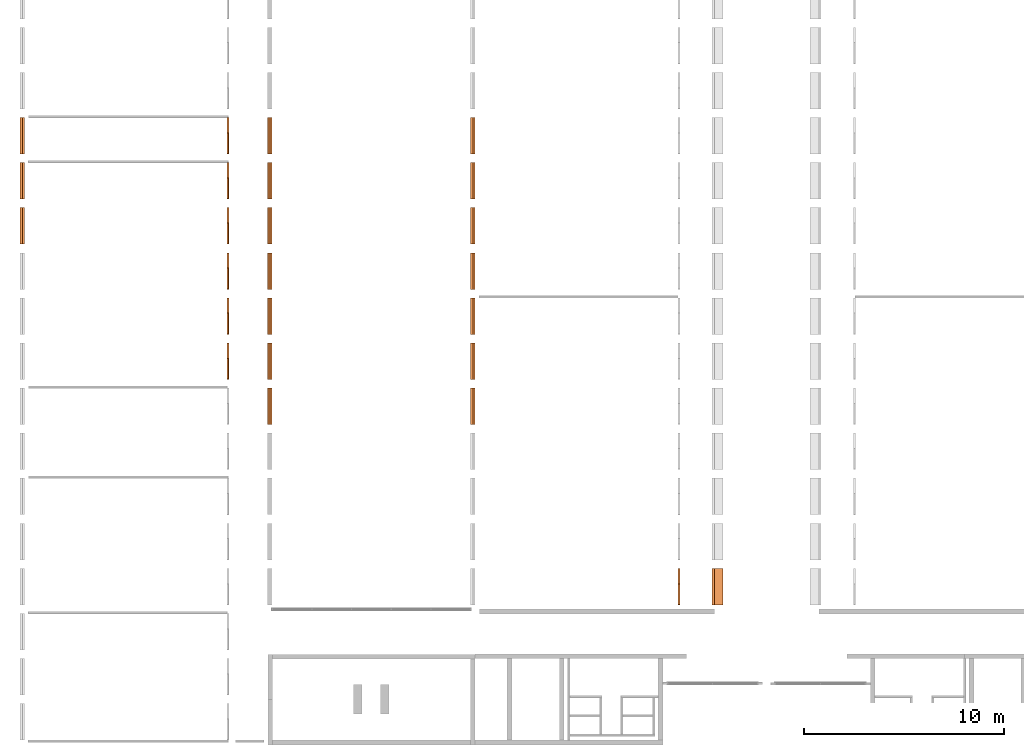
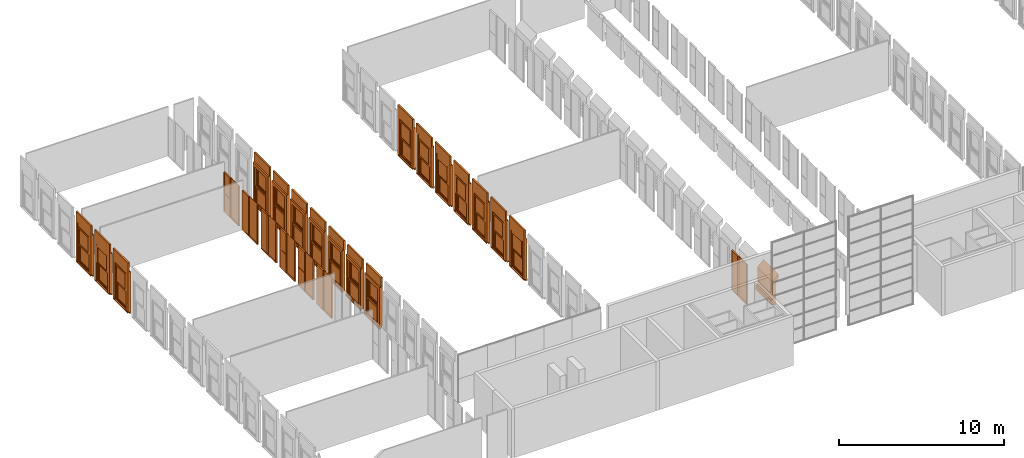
# One storey, part 10 of 16: 25 proxies.
"""IFC2X3 building model written with IfcOpenShell, lengths in millimetres."""

from ifc_helpers import new_model, entity, si_unit, converted_unit, derived_unit, direction, frame, frame_2d, origin, origin_2d_with_axis, place, context, subcontext, project, spatial, polyline, rectangle, outline, extrude, source, transform, mapped, material, material_list, type_object, type_shapes, element, save


model = new_model("IFC2X3")

# Units and contexts
model_context = context("Model", 3, precision=0.01, world=origin(), true_north=direction((6.12303176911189e-17, 1.0)))
body_context = subcontext(model_context, "Body", "Model", "MODEL_VIEW")
ifc_project = project(units=[si_unit("LENGTHUNIT", "METRE", prefix="MILLI"), si_unit("AREAUNIT", "SQUARE_METRE"), si_unit("VOLUMEUNIT", "CUBIC_METRE"), converted_unit("PLANEANGLEUNIT", "DEGREE", entity("IfcRatioMeasure", 0.0174532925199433), si_unit("PLANEANGLEUNIT", "RADIAN"), dimensions=[0, 0, 0, 0, 0, 0, 0]), si_unit("MASSUNIT", "GRAM", prefix="KILO"), derived_unit("MASSDENSITYUNIT", [(si_unit("MASSUNIT", "GRAM", prefix="KILO"), 1), (si_unit("LENGTHUNIT", "METRE"), -3)]), derived_unit("MOMENTOFINERTIAUNIT", [(si_unit("LENGTHUNIT", "METRE"), 4)]), si_unit("TIMEUNIT", "SECOND"), si_unit("FREQUENCYUNIT", "HERTZ"), si_unit("THERMODYNAMICTEMPERATUREUNIT", "DEGREE_CELSIUS"), derived_unit("THERMALTRANSMITTANCEUNIT", [(si_unit("MASSUNIT", "GRAM", prefix="KILO"), 1), (si_unit("THERMODYNAMICTEMPERATUREUNIT", "KELVIN"), -1), (si_unit("TIMEUNIT", "SECOND"), -3)]), derived_unit("VOLUMETRICFLOWRATEUNIT", [(si_unit("LENGTHUNIT", "METRE"), 3), (si_unit("TIMEUNIT", "SECOND"), -1)]), si_unit("ELECTRICCURRENTUNIT", "AMPERE"), si_unit("ELECTRICVOLTAGEUNIT", "VOLT"), si_unit("POWERUNIT", "WATT"), si_unit("FORCEUNIT", "NEWTON", prefix="KILO"), si_unit("ILLUMINANCEUNIT", "LUX"), si_unit("LUMINOUSFLUXUNIT", "LUMEN"), si_unit("LUMINOUSINTENSITYUNIT", "CANDELA"), derived_unit("USERDEFINED", [(si_unit("MASSUNIT", "GRAM", prefix="KILO"), -1), (si_unit("LENGTHUNIT", "METRE"), -2), (si_unit("TIMEUNIT", "SECOND"), 3), (si_unit("LUMINOUSFLUXUNIT", "LUMEN"), 1)]), derived_unit("LINEARVELOCITYUNIT", [(si_unit("LENGTHUNIT", "METRE"), 1), (si_unit("TIMEUNIT", "SECOND"), -1)]), si_unit("PRESSUREUNIT", "PASCAL"), derived_unit("USERDEFINED", [(si_unit("LENGTHUNIT", "METRE"), -2), (si_unit("MASSUNIT", "GRAM", prefix="KILO"), 1), (si_unit("TIMEUNIT", "SECOND"), -2)]), derived_unit("LINEARFORCEUNIT", [(si_unit("MASSUNIT", "GRAM", prefix="KILO"), 1), (si_unit("LENGTHUNIT", "METRE"), 1), (si_unit("TIMEUNIT", "SECOND"), -2), (si_unit("LENGTHUNIT", "METRE"), -1)]), derived_unit("PLANARFORCEUNIT", [(si_unit("MASSUNIT", "GRAM", prefix="KILO"), 1), (si_unit("LENGTHUNIT", "METRE"), 1), (si_unit("TIMEUNIT", "SECOND"), -2), (si_unit("LENGTHUNIT", "METRE"), -2)])], contexts=[model_context])

# Site, building, storey
site_placement = place(None, frame((10627.5135316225, 21939.0796949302, 0.0)))
site = spatial("IfcSite", under=ifc_project, at=site_placement, Name="Default", CompositionType="ELEMENT")
building_placement = place(site_placement, origin())
building = spatial("IfcBuilding", under=site, at=building_placement, CompositionType="ELEMENT")
storey_placement = place(building_placement, frame((0.0, 0.0, 3660.0)))
storey = spatial("IfcBuildingStorey", under=building, at=storey_placement, Name="R+1", CompositionType="ELEMENT", Elevation=3660.0)

# Proxies
ifc_material_1 = material(Name="PVC, Flexible")
ifc_material_2 = material(Name="Glass")
ifc_material_list_1 = material_list([ifc_material_1, ifc_material_2])
building_element_proxy_type_1 = type_object("IfcBuildingElementProxyType", Name="FENETRE.dwg:Fenetre ext 296+70", PredefinedType="NOTDEFINED", material=ifc_material_1)
shared_shape_1 = source(origin(), body_context, "Body", "SweptSolid", [
    extrude(rectangle(XDim=1829.99999999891, YDim=112.500043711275, at=origin_2d_with_axis()), frame((-10.4189092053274, 56.2500218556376, 2960.0), z_axis=(0.0, 0.0, 1.0), x_axis=(-1.0, 0.0, 0.0)), (0.0, 0.0, 1.0), 700.0),
    extrude(outline(polyline([(-68.5678005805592, -14.3879872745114), (-72.4883397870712, -33.9999574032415), (-67.5853472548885, -34.9800922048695), (-63.9024543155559, -16.5569155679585), (44.3087537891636, -16.5569155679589), (54.1101018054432, 32.4730097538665), (40.6268723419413, 35.1683804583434), (40.1368049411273, 32.7168841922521), (51.168538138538, 30.5115808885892), (42.1928709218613, -14.3879872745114), (-68.5678005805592, -14.3879872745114)])), frame((-925.418909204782, 66.917049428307, -47.5499763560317), z_axis=(-1.0, 0.0, 0.0), x_axis=(0.0, 0.980598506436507, -0.196026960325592)), (0.0, 0.0, -1.0), 1829.99999999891),
    extrude(outline(polyline([(-64.667066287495, -56.2500218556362), (66.1666874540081, -56.2500218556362), (66.1666874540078, 56.2500218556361), (-67.6663086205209, 56.2500218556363), (-64.667066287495, -56.2500218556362)])), frame((-925.418909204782, -56.2500218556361, -63.833312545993), z_axis=(1.0, 0.0, 0.0), x_axis=(0.0, 0.0, -1.0)), (0.0, 0.0, 1.0), 1829.99999999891),
    extrude(outline(polyline([(-55.5555555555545, 97.0007159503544), (-55.5555555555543, -5.85738417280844), (-55.5555555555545, -95.357341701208), (-45.5555555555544, -95.3573417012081), (-45.5555555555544, -105.357341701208), (174.444444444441, -105.357341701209), (174.444444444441, 106.642659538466), (-45.5555555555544, 106.642659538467), (-45.5555555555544, 97.0007159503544), (-55.5555555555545, 97.0007159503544)])), frame((849.025535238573, 5.85738417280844, 0.0), z_axis=(0.0, 0.0, -1.0), x_axis=(-1.0, 0.0, 0.0)), (0.0, 0.0, -1.0), 2960.0),
    extrude(rectangle(XDim=199.499957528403, YDim=1369.99999999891, at=origin_2d_with_axis()), frame((-10.4189092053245, 0.250021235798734, 2730.0), z_axis=(0.0, 0.0, 1.0), x_axis=(0.0, 1.0, 0.0)), (0.0, 0.0, 1.0), 230.000000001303),
    extrude(outline(polyline([(-97.0007159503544, -55.5555555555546), (5.85738417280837, -55.5555555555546), (95.357341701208, -55.5555555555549), (95.357341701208, -45.5555555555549), (105.357341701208, -45.5555555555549), (105.357341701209, 174.44444444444), (-106.642659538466, 174.444444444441), (-106.642659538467, -45.5555555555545), (-97.0007159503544, -45.5555555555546), (-97.0007159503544, -55.5555555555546)])), frame((-869.863353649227, 5.85738417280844, 0.0), z_axis=(0.0, 0.0, 1.0), x_axis=(0.0, -1.0, 0.0)), (0.0, 0.0, 1.0), 2960.0),
    extrude(rectangle(XDim=1.0, YDim=1079.99999999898, at=origin_2d_with_axis()), frame((-10.4189092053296, -19.5, 130.0), z_axis=(0.0, 0.0, 1.0), x_axis=(0.0, 1.0, 0.0)), (0.0, 0.0, 1.0), 1120.00000000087),
    extrude(rectangle(XDim=1.0, YDim=1079.99999999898, at=frame_2d((-4.21884749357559e-15, 0.0), x_axis=(1.0, 0.0))), frame((-10.4189092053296, -30.5, 130.0), z_axis=(0.0, 0.0, 1.0), x_axis=(0.0, 1.0, 0.0)), (0.0, 0.0, 1.0), 1120.00000000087),
    extrude(rectangle(XDim=1.0, YDim=1079.99999999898, at=frame_2d((-4.21884749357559e-15, 0.0), x_axis=(1.0, 0.0))), frame((-10.4189092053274, 69.5, 1465.0), z_axis=(0.0, 0.0, 1.0), x_axis=(0.0, 1.0, 0.0)), (0.0, 0.0, 1.0), 1120.0),
    extrude(rectangle(XDim=0.999999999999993, YDim=1079.99999999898, at=frame_2d((-8.46545056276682e-15, 0.0), x_axis=(1.0, 0.0))), frame((-10.4189092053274, 80.5, 1465.0), z_axis=(0.0, 0.0, 1.0), x_axis=(0.0, 1.0, 0.0)), (0.0, 0.0, 1.0), 1120.00000000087),
    extrude(outline(polyline([(-685.0, -1365.0), (0.0, -1365.0), (685.0, -1365.0), (685.0, 1365.0), (0.0, 1365.0), (-685.0, 1365.0), (-685.0, -1365.0)]), holes=[polyline([(-640.0, -1320.0), (-640.0, -45.0), (0.0, -45.0), (640.0, -45.0), (640.0, -1320.0), (0.0, -1320.0), (-640.0, -1320.0)]), polyline([(-640.0, 40.0), (-640.0, 1315.0), (0.0, 1315.0), (640.0, 1315.0), (640.0, 40.0), (0.0, 40.0), (-640.0, 40.0)])]), frame((-10.4189092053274, 0.0, 1365.0), z_axis=(0.0, 1.0, 0.0), x_axis=(1.0, 0.0, 0.0)), (0.0, 0.0, 1.0), 50.0),
    extrude(outline(polyline([(-655.0, -667.500000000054), (655.0, -667.500000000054), (655.0, 667.500000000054), (-655.0, 667.500000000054), (-655.0, -667.500000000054)]), holes=[polyline([(-540.0, 552.500000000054), (540.0, 552.500000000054), (540.0, -567.500000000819), (-540.0, -567.500000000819), (-540.0, 552.500000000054)])]), frame((-10.4189092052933, -50.0, 697.500000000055), z_axis=(0.0, 1.0, 0.0), x_axis=(-1.0, 0.0, 0.0)), (0.0, 0.0, 1.0), 50.0),
    extrude(outline(polyline([(-655.0, -667.500000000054), (655.0, -667.500000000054), (655.0, 667.500000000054), (-655.0, 667.500000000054), (-655.0, -667.500000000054)]), holes=[polyline([(-540.0, 552.500000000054), (540.0, 552.500000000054), (540.0, -567.500000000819), (-540.0, -567.500000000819), (-540.0, 552.500000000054)])]), frame((-10.4189092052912, 50.0, 2032.50000000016), z_axis=(0.0, 1.0, 0.0), x_axis=(-1.0, 0.0, 0.0)), (0.0, 0.0, 1.0), 50.0),
])
type_shapes(building_element_proxy_type_1, [shared_shape_1])
proxy_1_placement = place(storey_placement, frame((-10728.9017825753, 8581.33921427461, 0.0), z_axis=(0.0, 0.0, 1.0), x_axis=(0.0, 1.0, 0.0)))
element("IfcBuildingElementProxy", 1, at=proxy_1_placement, inside=storey, type_object=building_element_proxy_type_1, material=ifc_material_list_1, Name="FENETRE.dwg:Fenetre ext 296+70", ObjectType="FENETRE.dwg:Fenetre ext 296+70", context=body_context, shape_type="MappedRepresentation", body=[
    mapped(shared_shape_1, transform((0.0, 0.0, 0.0), scale=1.0)),
])
ifc_material_list_2 = material_list([ifc_material_1, ifc_material_2])
proxy_2_placement = place(storey_placement, frame((-10728.9017825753, 6321.33921427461, 0.0), z_axis=(0.0, 0.0, 1.0), x_axis=(0.0, 1.0, 0.0)))
element("IfcBuildingElementProxy", 2, at=proxy_2_placement, inside=storey, type_object=building_element_proxy_type_1, material=ifc_material_list_2, Name="FENETRE.dwg:Fenetre ext 296+70", ObjectType="FENETRE.dwg:Fenetre ext 296+70", context=body_context, shape_type="MappedRepresentation", body=[
    mapped(shared_shape_1, transform((0.0, 0.0, 0.0), scale=1.0)),
])
ifc_material_list_3 = material_list([ifc_material_1, ifc_material_2])
proxy_3_placement = place(storey_placement, frame((-10728.9017825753, 4061.33921427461, 0.0), z_axis=(0.0, 0.0, 1.0), x_axis=(0.0, 1.0, 0.0)))
element("IfcBuildingElementProxy", 3, at=proxy_3_placement, inside=storey, type_object=building_element_proxy_type_1, material=ifc_material_list_3, Name="FENETRE.dwg:Fenetre ext 296+70", ObjectType="FENETRE.dwg:Fenetre ext 296+70", context=body_context, shape_type="MappedRepresentation", body=[
    mapped(shared_shape_1, transform((0.0, 0.0, 0.0), scale=1.0)),
])
ifc_material_list_4 = material_list([ifc_material_1, ifc_material_2])
proxy_4_placement = place(storey_placement, frame((11860.9034578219, 8581.33921427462, 0.0), z_axis=(0.0, 0.0, 1.0), x_axis=(0.0, 1.0, 0.0)))
element("IfcBuildingElementProxy", 4, at=proxy_4_placement, inside=storey, type_object=building_element_proxy_type_1, material=ifc_material_list_4, Name="FENETRE.dwg:Fenetre ext 296+70", ObjectType="FENETRE.dwg:Fenetre ext 296+70", context=body_context, shape_type="MappedRepresentation", body=[
    mapped(shared_shape_1, transform((0.0, 0.0, 0.0), scale=1.0)),
])
ifc_material_list_5 = material_list([ifc_material_1, ifc_material_2])
proxy_5_placement = place(storey_placement, frame((11860.9034578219, 6321.33921427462, 0.0), z_axis=(0.0, 0.0, 1.0), x_axis=(0.0, 1.0, 0.0)))
element("IfcBuildingElementProxy", 5, at=proxy_5_placement, inside=storey, type_object=building_element_proxy_type_1, material=ifc_material_list_5, Name="FENETRE.dwg:Fenetre ext 296+70", ObjectType="FENETRE.dwg:Fenetre ext 296+70", context=body_context, shape_type="MappedRepresentation", body=[
    mapped(shared_shape_1, transform((0.0, 0.0, 0.0), scale=1.0)),
])
ifc_material_list_6 = material_list([ifc_material_1, ifc_material_2])
proxy_6_placement = place(storey_placement, frame((11860.9034578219, 4061.33921427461, 0.0), z_axis=(0.0, 0.0, 1.0), x_axis=(0.0, 1.0, 0.0)))
element("IfcBuildingElementProxy", 6, at=proxy_6_placement, inside=storey, type_object=building_element_proxy_type_1, material=ifc_material_list_6, Name="FENETRE.dwg:Fenetre ext 296+70", ObjectType="FENETRE.dwg:Fenetre ext 296+70", context=body_context, shape_type="MappedRepresentation", body=[
    mapped(shared_shape_1, transform((0.0, 0.0, 0.0), scale=1.0)),
])
ifc_material_list_7 = material_list([ifc_material_1, ifc_material_2])
proxy_7_placement = place(storey_placement, frame((11860.9034578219, 1801.33921427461, 0.0), z_axis=(0.0, 0.0, 1.0), x_axis=(0.0, 1.0, 0.0)))
element("IfcBuildingElementProxy", 7, at=proxy_7_placement, inside=storey, type_object=building_element_proxy_type_1, material=ifc_material_list_7, Name="FENETRE.dwg:Fenetre ext 296+70", ObjectType="FENETRE.dwg:Fenetre ext 296+70", context=body_context, shape_type="MappedRepresentation", body=[
    mapped(shared_shape_1, transform((0.0, 0.0, 0.0), scale=1.0)),
])
ifc_material_list_8 = material_list([ifc_material_1, ifc_material_2])
proxy_8_placement = place(storey_placement, frame((11860.9034578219, -458.660785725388, 0.0), z_axis=(0.0, 0.0, 1.0), x_axis=(0.0, 1.0, 0.0)))
element("IfcBuildingElementProxy", 8, at=proxy_8_placement, inside=storey, type_object=building_element_proxy_type_1, material=ifc_material_list_8, Name="FENETRE.dwg:Fenetre ext 296+70", ObjectType="FENETRE.dwg:Fenetre ext 296+70", context=body_context, shape_type="MappedRepresentation", body=[
    mapped(shared_shape_1, transform((0.0, 0.0, 0.0), scale=1.0)),
])
ifc_material_list_9 = material_list([ifc_material_1, ifc_material_2])
proxy_9_placement = place(storey_placement, frame((11860.9034578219, -2718.66078572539, 0.0), z_axis=(0.0, 0.0, 1.0), x_axis=(0.0, 1.0, 0.0)))
element("IfcBuildingElementProxy", 9, at=proxy_9_placement, inside=storey, type_object=building_element_proxy_type_1, material=ifc_material_list_9, Name="FENETRE.dwg:Fenetre ext 296+70", ObjectType="FENETRE.dwg:Fenetre ext 296+70", context=body_context, shape_type="MappedRepresentation", body=[
    mapped(shared_shape_1, transform((0.0, 0.0, 0.0), scale=1.0)),
])
ifc_material_list_10 = material_list([ifc_material_1, ifc_material_2])
proxy_10_placement = place(storey_placement, frame((11860.9034578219, -4978.66078572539, 0.0), z_axis=(0.0, 0.0, 1.0), x_axis=(0.0, 1.0, 0.0)))
element("IfcBuildingElementProxy", 10, at=proxy_10_placement, inside=storey, type_object=building_element_proxy_type_1, material=ifc_material_list_10, Name="FENETRE.dwg:Fenetre ext 296+70", ObjectType="FENETRE.dwg:Fenetre ext 296+70", context=body_context, shape_type="MappedRepresentation", body=[
    mapped(shared_shape_1, transform((0.0, 0.0, 0.0), scale=1.0)),
])
ifc_material_list_11 = material_list([ifc_material_1, ifc_material_2])
building_element_proxy_type_2 = type_object("IfcBuildingElementProxyType", Name="FENETRE.dwg:Fenetre ext 296+70", PredefinedType="NOTDEFINED", material=ifc_material_1)
shared_shape_2 = source(origin(), body_context, "Body", "SweptSolid", [
    extrude(rectangle(XDim=112.500043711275, YDim=1829.99999999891, at=origin_2d_with_axis()), frame((-10.4189092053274, -56.2500218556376, 2960.0), z_axis=(0.0, 0.0, 1.0), x_axis=(0.0, 1.0, 0.0)), (0.0, 0.0, 1.0), 700.0),
    extrude(outline(polyline([(27.5499763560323, -64.4170494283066), (47.5499763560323, -64.4170494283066), (47.5499763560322, -59.4170494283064), (28.7622905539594, -59.4170494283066), (7.54997635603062, 46.6946996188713), (-42.4500236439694, 46.6946996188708), (-42.4500236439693, 32.9446996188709), (-39.9500236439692, 32.9446996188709), (-39.9500236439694, 44.1946996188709), (5.83789859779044, 44.1946996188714), (27.5499763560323, -64.4170494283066)])), frame((-925.418909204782, -66.917049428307, -47.5499763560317), z_axis=(1.0, 0.0, 0.0), x_axis=(0.0, 0.0, 1.0)), (0.0, 0.0, 1.0), 1829.99999999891),
    extrude(outline(polyline([(-54.506636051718, -66.1431859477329), (58.0333803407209, -66.1431859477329), (54.4666704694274, 67.6422744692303), (-57.9934147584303, 64.6440974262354), (-54.506636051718, -66.1431859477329)])), frame((-925.418909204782, 56.2500218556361, -63.833312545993), z_axis=(1.0, 0.0, 0.0), x_axis=(0.0, -0.999644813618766, 0.0266504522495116)), (0.0, 0.0, 1.0), 1829.99999999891),
    extrude(outline(polyline([(-97.0007159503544, -55.5555555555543), (5.85738417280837, -55.5555555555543), (95.357341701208, -55.5555555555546), (95.357341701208, -45.5555555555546), (105.357341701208, -45.5555555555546), (105.357341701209, 174.444444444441), (-106.642659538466, 174.444444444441), (-106.642659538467, -45.5555555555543), (-97.0007159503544, -45.5555555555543), (-97.0007159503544, -55.5555555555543)])), frame((849.025535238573, -5.85738417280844, 0.0), z_axis=(0.0, 0.0, 1.0), x_axis=(0.0, 1.0, 0.0)), (0.0, 0.0, 1.0), 2960.0),
    extrude(rectangle(XDim=1369.99999999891, YDim=199.499957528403, at=origin_2d_with_axis()), frame((-10.4189092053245, -0.250021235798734, 2730.0), z_axis=(0.0, 0.0, 1.0), x_axis=(-1.0, 0.0, 0.0)), (0.0, 0.0, 1.0), 230.000000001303),
    extrude(outline(polyline([(-55.5555555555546, 97.0007159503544), (-55.5555555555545, -5.85738417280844), (-55.5555555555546, -95.357341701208), (-45.5555555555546, -95.3573417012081), (-45.5555555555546, -105.357341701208), (174.444444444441, -105.357341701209), (174.444444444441, 106.642659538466), (-45.5555555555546, 106.642659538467), (-45.5555555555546, 97.0007159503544), (-55.5555555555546, 97.0007159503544)])), frame((-869.863353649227, -5.85738417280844, 0.0), z_axis=(0.0, 0.0, -1.0), x_axis=(1.0, 0.0, 0.0)), (0.0, 0.0, -1.0), 2960.0),
    extrude(rectangle(XDim=1079.99999999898, YDim=1.0, at=origin_2d_with_axis()), frame((-10.4189092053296, 19.5, 130.0), z_axis=(0.0, 0.0, 1.0), x_axis=(-1.0, 0.0, 0.0)), (0.0, 0.0, 1.0), 1120.00000000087),
    extrude(rectangle(XDim=1079.99999999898, YDim=1.0, at=origin_2d_with_axis()), frame((-10.4189092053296, 30.5, 130.0), z_axis=(0.0, 0.0, 1.0), x_axis=(-1.0, 0.0, 0.0)), (0.0, 0.0, 1.0), 1120.00000000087),
    extrude(rectangle(XDim=1079.99999999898, YDim=1.0, at=frame_2d((0.0, 4.21884749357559e-15), x_axis=(1.0, 0.0))), frame((-10.4189092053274, -69.5, 1465.0), z_axis=(0.0, 0.0, 1.0), x_axis=(-1.0, 0.0, 0.0)), (0.0, 0.0, 1.0), 1120.0),
    extrude(rectangle(XDim=1079.99999999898, YDim=0.999999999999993, at=frame_2d((0.0, -8.46545056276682e-15), x_axis=(1.0, 0.0))), frame((-10.4189092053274, -80.5, 1465.0), z_axis=(0.0, 0.0, 1.0), x_axis=(-1.0, 0.0, 0.0)), (0.0, 0.0, 1.0), 1120.00000000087),
    extrude(outline(polyline([(-685.0, -1365.0), (0.0, -1365.0), (685.0, -1365.0), (685.0, 1365.0), (0.0, 1365.0), (-685.0, 1365.0), (-685.0, -1365.0)]), holes=[polyline([(-640.0, -1320.0), (-640.0, -45.0), (0.0, -45.0), (640.0, -45.0), (640.0, -1320.0), (0.0, -1320.0), (-640.0, -1320.0)]), polyline([(-640.0, 40.0), (-640.0, 1315.0), (0.0, 1315.0), (640.0, 1315.0), (640.0, 40.0), (0.0, 40.0), (-640.0, 40.0)])]), frame((-10.4189092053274, -50.0, 1365.0), z_axis=(0.0, 1.0, 0.0), x_axis=(1.0, 0.0, 0.0)), (0.0, 0.0, 1.0), 50.0),
    extrude(outline(polyline([(-655.0, -667.500000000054), (655.0, -667.500000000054), (655.0, 667.500000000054), (-655.0, 667.500000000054), (-655.0, -667.500000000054)]), holes=[polyline([(-540.0, 552.500000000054), (540.0, 552.500000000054), (540.0, -567.500000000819), (-540.0, -567.500000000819), (-540.0, 552.500000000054)])]), frame((-10.4189092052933, 0.0, 697.500000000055), z_axis=(0.0, 1.0, 0.0), x_axis=(-1.0, 0.0, 0.0)), (0.0, 0.0, 1.0), 50.0),
    extrude(outline(polyline([(-655.0, -667.500000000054), (655.0, -667.500000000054), (655.0, 667.500000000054), (-655.0, 667.500000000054), (-655.0, -667.500000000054)]), holes=[polyline([(-540.0, 552.500000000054), (540.0, 552.500000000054), (540.0, -567.500000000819), (-540.0, -567.500000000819), (-540.0, 552.500000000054)])]), frame((-10.4189092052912, -100.0, 2032.50000000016), z_axis=(0.0, 1.0, 0.0), x_axis=(-1.0, 0.0, 0.0)), (0.0, 0.0, 1.0), 50.0),
])
type_shapes(building_element_proxy_type_2, [shared_shape_2])
proxy_11_placement = place(storey_placement, frame((1684.98642466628, 8581.33921427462, 0.0), z_axis=(0.0, 0.0, 1.0), x_axis=(0.0, 1.0, 0.0)))
element("IfcBuildingElementProxy", 11, at=proxy_11_placement, inside=storey, type_object=building_element_proxy_type_2, material=ifc_material_list_11, Name="FENETRE.dwg:Fenetre ext 296+70", ObjectType="FENETRE.dwg:Fenetre ext 296+70", context=body_context, shape_type="MappedRepresentation", body=[
    mapped(shared_shape_2, transform((0.0, 0.0, 0.0), scale=1.0)),
])
ifc_material_list_12 = material_list([ifc_material_1, ifc_material_2])
proxy_12_placement = place(storey_placement, frame((1684.98642466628, 6321.33921427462, 0.0), z_axis=(0.0, 0.0, 1.0), x_axis=(0.0, 1.0, 0.0)))
element("IfcBuildingElementProxy", 12, at=proxy_12_placement, inside=storey, type_object=building_element_proxy_type_2, material=ifc_material_list_12, Name="FENETRE.dwg:Fenetre ext 296+70", ObjectType="FENETRE.dwg:Fenetre ext 296+70", context=body_context, shape_type="MappedRepresentation", body=[
    mapped(shared_shape_2, transform((0.0, 0.0, 0.0), scale=1.0)),
])
ifc_material_list_13 = material_list([ifc_material_1, ifc_material_2])
proxy_13_placement = place(storey_placement, frame((1684.98642466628, 4061.33921427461, 0.0), z_axis=(0.0, 0.0, 1.0), x_axis=(0.0, 1.0, 0.0)))
element("IfcBuildingElementProxy", 13, at=proxy_13_placement, inside=storey, type_object=building_element_proxy_type_2, material=ifc_material_list_13, Name="FENETRE.dwg:Fenetre ext 296+70", ObjectType="FENETRE.dwg:Fenetre ext 296+70", context=body_context, shape_type="MappedRepresentation", body=[
    mapped(shared_shape_2, transform((0.0, 0.0, 0.0), scale=1.0)),
])
ifc_material_list_14 = material_list([ifc_material_1, ifc_material_2])
proxy_14_placement = place(storey_placement, frame((1684.98642466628, 1801.33921427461, 0.0), z_axis=(0.0, 0.0, 1.0), x_axis=(0.0, 1.0, 0.0)))
element("IfcBuildingElementProxy", 14, at=proxy_14_placement, inside=storey, type_object=building_element_proxy_type_2, material=ifc_material_list_14, Name="FENETRE.dwg:Fenetre ext 296+70", ObjectType="FENETRE.dwg:Fenetre ext 296+70", context=body_context, shape_type="MappedRepresentation", body=[
    mapped(shared_shape_2, transform((0.0, 0.0, 0.0), scale=1.0)),
])
ifc_material_list_15 = material_list([ifc_material_1, ifc_material_2])
proxy_15_placement = place(storey_placement, frame((1684.98642466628, -458.660785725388, 0.0), z_axis=(0.0, 0.0, 1.0), x_axis=(0.0, 1.0, 0.0)))
element("IfcBuildingElementProxy", 15, at=proxy_15_placement, inside=storey, type_object=building_element_proxy_type_2, material=ifc_material_list_15, Name="FENETRE.dwg:Fenetre ext 296+70", ObjectType="FENETRE.dwg:Fenetre ext 296+70", context=body_context, shape_type="MappedRepresentation", body=[
    mapped(shared_shape_2, transform((0.0, 0.0, 0.0), scale=1.0)),
])
ifc_material_list_16 = material_list([ifc_material_1, ifc_material_2])
proxy_16_placement = place(storey_placement, frame((1684.98642466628, -2718.66078572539, 0.0), z_axis=(0.0, 0.0, 1.0), x_axis=(0.0, 1.0, 0.0)))
element("IfcBuildingElementProxy", 16, at=proxy_16_placement, inside=storey, type_object=building_element_proxy_type_2, material=ifc_material_list_16, Name="FENETRE.dwg:Fenetre ext 296+70", ObjectType="FENETRE.dwg:Fenetre ext 296+70", context=body_context, shape_type="MappedRepresentation", body=[
    mapped(shared_shape_2, transform((0.0, 0.0, 0.0), scale=1.0)),
])
ifc_material_list_17 = material_list([ifc_material_1, ifc_material_2])
proxy_17_placement = place(storey_placement, frame((1684.98642466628, -4978.66078572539, 0.0), z_axis=(0.0, 0.0, 1.0), x_axis=(0.0, 1.0, 0.0)))
element("IfcBuildingElementProxy", 17, at=proxy_17_placement, inside=storey, type_object=building_element_proxy_type_2, material=ifc_material_list_17, Name="FENETRE.dwg:Fenetre ext 296+70", ObjectType="FENETRE.dwg:Fenetre ext 296+70", context=body_context, shape_type="MappedRepresentation", body=[
    mapped(shared_shape_2, transform((0.0, 0.0, 0.0), scale=1.0)),
])
ifc_material_3 = material(Name="Plywood, Sheathing")
ifc_material_list_18 = material_list([ifc_material_3, ifc_material_2])
building_element_proxy_type_3 = type_object("IfcBuildingElementProxyType", Name="Porte noire:Porte noire", PredefinedType="NOTDEFINED", material=ifc_material_3)
shared_shape_3 = source(origin(), body_context, "Body", "SweptSolid", [
    extrude(rectangle(XDim=100.0, YDim=23.0000000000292, at=origin_2d_with_axis()), frame((-950.918997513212, -50.0, 8.73189890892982), z_axis=(0.0, 0.0, 1.0), x_axis=(0.0, 1.0, 0.0)), (0.0, 0.0, 1.0), 2933.34951039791),
    extrude(rectangle(XDim=19.0, YDim=1038.0, at=frame_2d((7.99360577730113e-15, 0.0), x_axis=(1.0, 0.0))), frame((-420.418997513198, -87.5, 43.7318989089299), z_axis=(0.0, 0.0, 1.0), x_axis=(0.0, 1.0, 0.0)), (0.0, 0.0, 1.0), 2898.5),
    extrude(rectangle(XDim=100.0, YDim=1775.0, at=origin_2d_with_axis()), frame((-51.9189975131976, -50.0, 8.73189890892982), z_axis=(0.0, 0.0, 1.0), x_axis=(0.0, 1.0, 0.0)), (0.0, 0.0, 1.0), 35.0000000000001),
    extrude(rectangle(XDim=100.0, YDim=35.0000000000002, at=origin_2d_with_axis()), frame((853.081002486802, -50.0, 8.73189890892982), z_axis=(0.0, 0.0, 1.0), x_axis=(0.0, 1.0, 0.0)), (0.0, 0.0, 1.0), 2898.5),
    extrude(rectangle(XDim=100.0, YDim=740.0, at=origin_2d_with_axis()), frame((500.581002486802, -50.0, 2907.23189890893), z_axis=(0.0, 0.0, 1.0), x_axis=(0.0, 1.0, 0.0)), (0.0, 0.0, 1.0), 35.0000000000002),
    extrude(rectangle(XDim=100.0, YDim=31.9999999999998, at=origin_2d_with_axis()), frame((114.581002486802, -50.0, 43.7318989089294), z_axis=(0.0, 0.0, 1.0), x_axis=(0.0, 1.0, 0.0)), (0.0, 0.0, 1.0), 2898.5),
    extrude(rectangle(XDim=100.0, YDim=705.0, at=origin_2d_with_axis()), frame((483.081002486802, -50.0, 1343.73189890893), z_axis=(0.0, 0.0, 1.0), x_axis=(0.0, 1.0, 0.0)), (0.0, 0.0, 1.0), 55.0),
    extrude(outline(polyline([(-352.5, -650.0), (352.5, -650.0), (352.5, 650.0), (-352.5, 650.0), (-352.5, -650.0)]), holes=[polyline([(342.5, 640.0), (342.5, -640.0), (-342.5, -640.0), (-342.5, 640.0), (342.5, 640.0)])]), frame((483.081002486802, -80.0, 693.73189890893), z_axis=(0.0, 1.0, 0.0), x_axis=(1.0, 0.0, 0.0)), (0.0, 0.0, 1.0), 70.0),
    extrude(outline(polyline([(-754.25, -352.5), (754.25, -352.5), (754.25, 352.5), (-754.25, 352.5), (-754.25, -352.5)]), holes=[polyline([(744.25, 342.5), (744.25, -342.5), (-744.25, -342.5), (-744.25, 342.5), (744.25, 342.5)])]), frame((483.081002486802, -80.0, 2152.98189890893), z_axis=(0.0, 1.0, 0.0), x_axis=(0.0, 0.0, 1.0)), (0.0, 0.0, 1.0), 70.0),
    extrude(outline(polyline([(-640.0, -342.5), (640.0, -342.5), (640.0, 342.5), (-640.0, 342.5), (-640.0, -342.5)]), holes=[polyline([(630.0, 332.5), (630.0, -332.5), (-630.0, -332.5), (-630.0, 332.5), (630.0, 332.5)])]), frame((483.081002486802, -81.0, 693.731898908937), z_axis=(0.0, 1.0, 0.0), x_axis=(0.0, 0.0, 1.0)), (0.0, 0.0, 1.0), 3.99999999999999),
    extrude(outline(polyline([(-744.25, -342.5), (744.25, -342.5), (744.25, 342.5), (-744.25, 342.5), (-744.25, -342.5)]), holes=[polyline([(734.25, 332.5), (734.25, -332.5), (-734.25, -332.5), (-734.25, 332.5), (734.25, 332.5)])]), frame((483.081002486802, -81.0, 2152.98189890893), z_axis=(0.0, 1.0, 0.0), x_axis=(0.0, 0.0, 1.0)), (0.0, 0.0, 1.0), 3.99999999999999),
    extrude(outline(polyline([(-640.0, -342.5), (640.0, -342.5), (640.0, 342.5), (-640.0, 342.5), (-640.0, -342.5)]), holes=[polyline([(630.0, 332.5), (630.0, -332.5), (-630.0, -332.5), (-630.0, 332.5), (630.0, 332.5)])]), frame((483.081002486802, -15.0, 693.782575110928), z_axis=(0.0, 1.0, 0.0), x_axis=(0.0, 0.0, 1.0)), (0.0, 0.0, 1.0), 5.0),
    extrude(outline(polyline([(-744.25, -342.5), (744.25, -342.5), (744.25, 342.5), (-744.25, 342.5), (-744.25, -342.5)]), holes=[polyline([(734.25, 332.5), (734.25, -332.5), (-734.25, -332.5), (-734.25, 332.5), (734.25, 332.5)])]), frame((483.081002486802, -15.0, 2153.03257511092), z_axis=(0.0, 1.0, 0.0), x_axis=(0.0, 0.0, 1.0)), (0.0, 0.0, 1.0), 5.0),
    extrude(rectangle(XDim=2.0, YDim=665.0, at=frame_2d((8.43769498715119e-15, 0.0), x_axis=(1.0, 0.0))), frame((483.081002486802, -79.0, 1418.73189890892), z_axis=(0.0, 0.0, 1.0), x_axis=(0.0, 1.0, 0.0)), (0.0, 0.0, 1.0), 1468.50000000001),
    extrude(rectangle(XDim=2.0, YDim=665.0, at=frame_2d((8.43769498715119e-15, 0.0), x_axis=(1.0, 0.0))), frame((483.081002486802, -79.0, 63.7318989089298), z_axis=(0.0, 0.0, 1.0), x_axis=(0.0, 1.0, 0.0)), (0.0, 0.0, 1.0), 1260.0),
    extrude(rectangle(XDim=2.0, YDim=665.0, at=frame_2d((1.0547118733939e-15, 0.0), x_axis=(1.0, 0.0))), frame((483.081002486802, -13.0, 1418.78257511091), z_axis=(0.0, 0.0, 1.0), x_axis=(0.0, 1.0, 0.0)), (0.0, 0.0, 1.0), 1468.50000000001),
    extrude(rectangle(XDim=2.0, YDim=665.0, at=frame_2d((1.0547118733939e-15, 0.0), x_axis=(1.0, 0.0))), frame((483.081002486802, -13.0, 63.7825751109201), z_axis=(0.0, 0.0, 1.0), x_axis=(0.0, 1.0, 0.0)), (0.0, 0.0, 1.0), 1260.0),
])
type_shapes(building_element_proxy_type_3, [shared_shape_3])
proxy_18_placement = place(storey_placement, frame((-462.153535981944, -2682.660697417, 0.0), z_axis=(0.0, 0.0, 1.0), x_axis=(0.0, 1.0, 0.0)))
element("IfcBuildingElementProxy", 18, at=proxy_18_placement, inside=storey, type_object=building_element_proxy_type_3, material=ifc_material_list_18, Name="Porte noire:Porte noire", ObjectType="Porte noire:Porte noire", context=body_context, shape_type="MappedRepresentation", body=[
    mapped(shared_shape_3, transform((0.0, 0.0, 0.0), scale=1.0)),
])
ifc_material_list_19 = material_list([ifc_material_3, ifc_material_2])
proxy_19_placement = place(storey_placement, frame((-462.153535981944, -422.660697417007, 0.0), z_axis=(0.0, 0.0, 1.0), x_axis=(0.0, 1.0, 0.0)))
element("IfcBuildingElementProxy", 19, at=proxy_19_placement, inside=storey, type_object=building_element_proxy_type_3, material=ifc_material_list_19, Name="Porte noire:Porte noire", ObjectType="Porte noire:Porte noire", context=body_context, shape_type="MappedRepresentation", body=[
    mapped(shared_shape_3, transform((0.0, 0.0, 0.0), scale=1.0)),
])
ifc_material_list_20 = material_list([ifc_material_3, ifc_material_2])
proxy_20_placement = place(storey_placement, frame((-462.153535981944, 1837.33930258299, 0.0), z_axis=(0.0, 0.0, 1.0), x_axis=(0.0, 1.0, 0.0)))
element("IfcBuildingElementProxy", 20, at=proxy_20_placement, inside=storey, type_object=building_element_proxy_type_3, material=ifc_material_list_20, Name="Porte noire:Porte noire", ObjectType="Porte noire:Porte noire", context=body_context, shape_type="MappedRepresentation", body=[
    mapped(shared_shape_3, transform((0.0, 0.0, 0.0), scale=1.0)),
])
ifc_material_list_21 = material_list([ifc_material_3, ifc_material_2])
proxy_21_placement = place(storey_placement, frame((-462.153535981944, 4097.33930258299, 0.0), z_axis=(0.0, 0.0, 1.0), x_axis=(0.0, 1.0, 0.0)))
element("IfcBuildingElementProxy", 21, at=proxy_21_placement, inside=storey, type_object=building_element_proxy_type_3, material=ifc_material_list_21, Name="Porte noire:Porte noire", ObjectType="Porte noire:Porte noire", context=body_context, shape_type="MappedRepresentation", body=[
    mapped(shared_shape_3, transform((0.0, 0.0, 0.0), scale=1.0)),
])
ifc_material_list_22 = material_list([ifc_material_3, ifc_material_2])
proxy_22_placement = place(storey_placement, frame((-462.153535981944, 6357.33930258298, 0.0), z_axis=(0.0, 0.0, 1.0), x_axis=(0.0, 1.0, 0.0)))
element("IfcBuildingElementProxy", 22, at=proxy_22_placement, inside=storey, type_object=building_element_proxy_type_3, material=ifc_material_list_22, Name="Porte noire:Porte noire", ObjectType="Porte noire:Porte noire", context=body_context, shape_type="MappedRepresentation", body=[
    mapped(shared_shape_3, transform((0.0, 0.0, 0.0), scale=1.0)),
])
ifc_material_list_23 = material_list([ifc_material_3, ifc_material_2])
proxy_23_placement = place(storey_placement, frame((-462.153535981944, 8617.33930258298, 0.0), z_axis=(0.0, 0.0, 1.0), x_axis=(0.0, 1.0, 0.0)))
element("IfcBuildingElementProxy", 23, at=proxy_23_placement, inside=storey, type_object=building_element_proxy_type_3, material=ifc_material_list_23, Name="Porte noire:Porte noire", ObjectType="Porte noire:Porte noire", context=body_context, shape_type="MappedRepresentation", body=[
    mapped(shared_shape_3, transform((0.0, 0.0, 0.0), scale=1.0)),
])
ifc_material_list_24 = material_list([ifc_material_3, ifc_material_2])
proxy_24_placement = place(storey_placement, frame((22127.8464640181, -13982.6606974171, 0.0), z_axis=(0.0, 0.0, 1.0), x_axis=(0.0, 1.0, 0.0)))
element("IfcBuildingElementProxy", 24, at=proxy_24_placement, inside=storey, type_object=building_element_proxy_type_3, material=ifc_material_list_24, Name="Porte noire:Porte noire", ObjectType="Porte noire:Porte noire", context=body_context, shape_type="MappedRepresentation", body=[
    mapped(shared_shape_3, transform((0.0, 0.0, 0.0), scale=1.0)),
])
ifc_material_4 = material(Name="Concrete, Precast Smooth, Light Grey")
building_element_proxy_type_4 = type_object("IfcBuildingElementProxyType", Name="Panneaux mediateque:Panneaux mediateque", PredefinedType="NOTDEFINED", material=ifc_material_4)
shared_shape_4 = source(origin(), body_context, "Body", "SweptSolid", [
    extrude(outline(polyline([(-998.434688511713, -508.899393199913), (-1213.39514999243, -723.859854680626), (-605.283318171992, -723.859854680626), (115.965598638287, -2.61093787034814), (101.823463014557, 11.5311977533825), (296.277827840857, 205.985562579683), (310.419963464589, 191.843426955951), (395.272229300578, 106.991161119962), (639.224068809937, 350.943000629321), (554.371802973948, 435.79526646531), (625.082466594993, 506.505930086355), (473.054508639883, 658.533888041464), (-694.378772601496, -508.899393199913), (-998.434688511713, -508.899393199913)])), frame((0.0, -203.845498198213, 800.153828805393), z_axis=(-1.0, 0.0, 0.0), x_axis=(0.0, 0.707106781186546, -0.707106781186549)), (0.0, 0.0, -1.0), 1830.0),
])
type_shapes(building_element_proxy_type_4, [shared_shape_4])
proxy_25_placement = place(storey_placement, frame((23837.4872432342, -14944.0796949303, -700.0), z_axis=(0.0, 0.0, 1.0), x_axis=(0.0, 1.0, 0.0)))
element("IfcBuildingElementProxy", 25, at=proxy_25_placement, inside=storey, type_object=building_element_proxy_type_4, material=ifc_material_4, Name="Panneaux mediateque:Panneaux mediateque", ObjectType="Panneaux mediateque:Panneaux mediateque", context=body_context, shape_type="MappedRepresentation", body=[
    mapped(shared_shape_4, transform((0.0, 0.0, 0.0), scale=1.0)),
])

save(model, "model.ifc")
